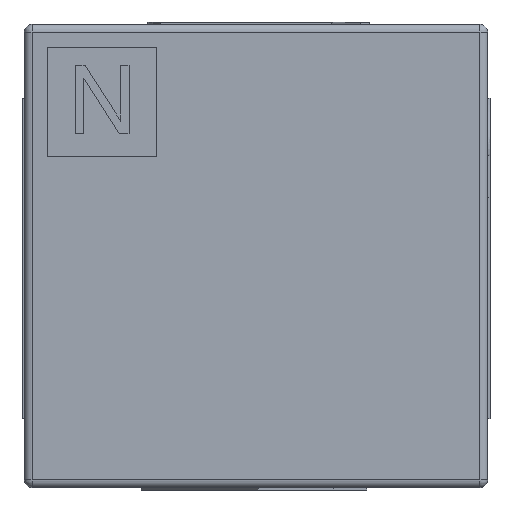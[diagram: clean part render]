
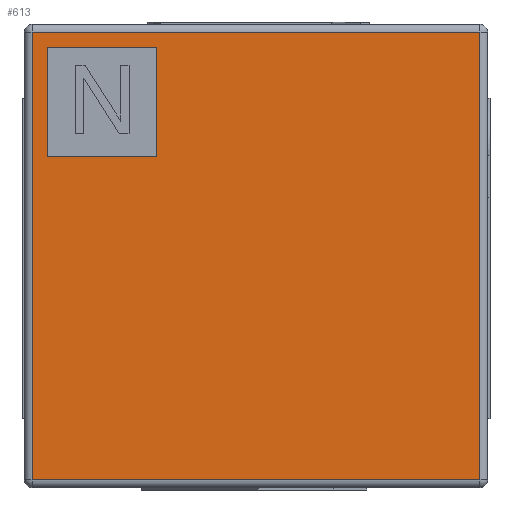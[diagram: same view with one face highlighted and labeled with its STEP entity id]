
A CAD part, front view. The second image highlights one B-rep face of the part: STEP entity #613.
In plain terms, the highlighted planar face has unit normal (0, -1, 0).
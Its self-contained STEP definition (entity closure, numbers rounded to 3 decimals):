
#136 = CYLINDRICAL_SURFACE('',#137,0.5);
#137 = AXIS2_PLACEMENT_3D('',#138,#139,#140);
#138 = CARTESIAN_POINT('',(-14.35,-14.35,-14.85));
#139 = DIRECTION('',(0.,0.,1.));
#140 = DIRECTION('',(-1.,-0.,0.));
#235 = VERTEX_POINT('',#236);
#236 = CARTESIAN_POINT('',(-14.35,-14.85,-14.35));
#263 = EDGE_CURVE('',#235,#264,#266,.T.);
#264 = VERTEX_POINT('',#265);
#265 = CARTESIAN_POINT('',(-14.35,-14.85,14.35));
#266 = SURFACE_CURVE('',#267,(#271,#278),.PCURVE_S1.);
#267 = LINE('',#268,#269);
#268 = CARTESIAN_POINT('',(-14.35,-14.85,-14.85));
#269 = VECTOR('',#270,1.);
#270 = DIRECTION('',(0.,0.,1.));
#271 = PCURVE('',#136,#272);
#272 = DEFINITIONAL_REPRESENTATION('',(#273),#277);
#273 = LINE('',#274,#275);
#274 = CARTESIAN_POINT('',(1.571,0.));
#275 = VECTOR('',#276,1.);
#276 = DIRECTION('',(0.,1.));
#277 = ( GEOMETRIC_REPRESENTATION_CONTEXT(2) 
PARAMETRIC_REPRESENTATION_CONTEXT() REPRESENTATION_CONTEXT('2D SPACE',''
  ) );
#278 = PCURVE('',#279,#284);
#279 = PLANE('',#280);
#280 = AXIS2_PLACEMENT_3D('',#281,#282,#283);
#281 = CARTESIAN_POINT('',(-14.85,-14.85,-14.85));
#282 = DIRECTION('',(0.,1.,0.));
#283 = DIRECTION('',(0.,0.,1.));
#284 = DEFINITIONAL_REPRESENTATION('',(#285),#289);
#285 = LINE('',#286,#287);
#286 = CARTESIAN_POINT('',(0.,0.5));
#287 = VECTOR('',#288,1.);
#288 = DIRECTION('',(1.,0.));
#289 = ( GEOMETRIC_REPRESENTATION_CONTEXT(2) 
PARAMETRIC_REPRESENTATION_CONTEXT() REPRESENTATION_CONTEXT('2D SPACE',''
  ) );
#572 = CYLINDRICAL_SURFACE('',#573,0.5);
#573 = AXIS2_PLACEMENT_3D('',#574,#575,#576);
#574 = CARTESIAN_POINT('',(-14.85,-14.35,-14.35));
#575 = DIRECTION('',(1.,0.,0.));
#576 = DIRECTION('',(0.,-1.,0.));
#602 = CYLINDRICAL_SURFACE('',#603,0.5);
#603 = AXIS2_PLACEMENT_3D('',#604,#605,#606);
#604 = CARTESIAN_POINT('',(-14.85,-14.35,14.35));
#605 = DIRECTION('',(1.,0.,0.));
#606 = DIRECTION('',(0.,-1.,0.));
#613 = ADVANCED_FACE('',(#614),#279,.F.);
#614 = FACE_BOUND('',#615,.F.);
#615 = EDGE_LOOP('',(#616,#617,#640,#668));
#616 = ORIENTED_EDGE('',*,*,#263,.T.);
#617 = ORIENTED_EDGE('',*,*,#618,.T.);
#618 = EDGE_CURVE('',#264,#619,#621,.T.);
#619 = VERTEX_POINT('',#620);
#620 = CARTESIAN_POINT('',(14.35,-14.85,14.35));
#621 = SURFACE_CURVE('',#622,(#626,#633),.PCURVE_S1.);
#622 = LINE('',#623,#624);
#623 = CARTESIAN_POINT('',(-14.85,-14.85,14.35));
#624 = VECTOR('',#625,1.);
#625 = DIRECTION('',(1.,0.,0.));
#626 = PCURVE('',#279,#627);
#627 = DEFINITIONAL_REPRESENTATION('',(#628),#632);
#628 = LINE('',#629,#630);
#629 = CARTESIAN_POINT('',(29.2,0.));
#630 = VECTOR('',#631,1.);
#631 = DIRECTION('',(0.,1.));
#632 = ( GEOMETRIC_REPRESENTATION_CONTEXT(2) 
PARAMETRIC_REPRESENTATION_CONTEXT() REPRESENTATION_CONTEXT('2D SPACE',''
  ) );
#633 = PCURVE('',#602,#634);
#634 = DEFINITIONAL_REPRESENTATION('',(#635),#639);
#635 = LINE('',#636,#637);
#636 = CARTESIAN_POINT('',(-0.,0.));
#637 = VECTOR('',#638,1.);
#638 = DIRECTION('',(-0.,1.));
#639 = ( GEOMETRIC_REPRESENTATION_CONTEXT(2) 
PARAMETRIC_REPRESENTATION_CONTEXT() REPRESENTATION_CONTEXT('2D SPACE',''
  ) );
#640 = ORIENTED_EDGE('',*,*,#641,.F.);
#641 = EDGE_CURVE('',#642,#619,#644,.T.);
#642 = VERTEX_POINT('',#643);
#643 = CARTESIAN_POINT('',(14.35,-14.85,-14.35));
#644 = SURFACE_CURVE('',#645,(#649,#656),.PCURVE_S1.);
#645 = LINE('',#646,#647);
#646 = CARTESIAN_POINT('',(14.35,-14.85,-14.85));
#647 = VECTOR('',#648,1.);
#648 = DIRECTION('',(0.,0.,1.));
#649 = PCURVE('',#279,#650);
#650 = DEFINITIONAL_REPRESENTATION('',(#651),#655);
#651 = LINE('',#652,#653);
#652 = CARTESIAN_POINT('',(0.,29.2));
#653 = VECTOR('',#654,1.);
#654 = DIRECTION('',(1.,0.));
#655 = ( GEOMETRIC_REPRESENTATION_CONTEXT(2) 
PARAMETRIC_REPRESENTATION_CONTEXT() REPRESENTATION_CONTEXT('2D SPACE',''
  ) );
#656 = PCURVE('',#657,#662);
#657 = CYLINDRICAL_SURFACE('',#658,0.5);
#658 = AXIS2_PLACEMENT_3D('',#659,#660,#661);
#659 = CARTESIAN_POINT('',(14.35,-14.35,-14.85));
#660 = DIRECTION('',(0.,0.,1.));
#661 = DIRECTION('',(1.,0.,-0.));
#662 = DEFINITIONAL_REPRESENTATION('',(#663),#667);
#663 = LINE('',#664,#665);
#664 = CARTESIAN_POINT('',(-1.571,0.));
#665 = VECTOR('',#666,1.);
#666 = DIRECTION('',(-0.,1.));
#667 = ( GEOMETRIC_REPRESENTATION_CONTEXT(2) 
PARAMETRIC_REPRESENTATION_CONTEXT() REPRESENTATION_CONTEXT('2D SPACE',''
  ) );
#668 = ORIENTED_EDGE('',*,*,#669,.F.);
#669 = EDGE_CURVE('',#235,#642,#670,.T.);
#670 = SURFACE_CURVE('',#671,(#675,#682),.PCURVE_S1.);
#671 = LINE('',#672,#673);
#672 = CARTESIAN_POINT('',(-14.85,-14.85,-14.35));
#673 = VECTOR('',#674,1.);
#674 = DIRECTION('',(1.,0.,0.));
#675 = PCURVE('',#279,#676);
#676 = DEFINITIONAL_REPRESENTATION('',(#677),#681);
#677 = LINE('',#678,#679);
#678 = CARTESIAN_POINT('',(0.5,0.));
#679 = VECTOR('',#680,1.);
#680 = DIRECTION('',(0.,1.));
#681 = ( GEOMETRIC_REPRESENTATION_CONTEXT(2) 
PARAMETRIC_REPRESENTATION_CONTEXT() REPRESENTATION_CONTEXT('2D SPACE',''
  ) );
#682 = PCURVE('',#572,#683);
#683 = DEFINITIONAL_REPRESENTATION('',(#684),#688);
#684 = LINE('',#685,#686);
#685 = CARTESIAN_POINT('',(0.,0.));
#686 = VECTOR('',#687,1.);
#687 = DIRECTION('',(0.,1.));
#688 = ( GEOMETRIC_REPRESENTATION_CONTEXT(2) 
PARAMETRIC_REPRESENTATION_CONTEXT() REPRESENTATION_CONTEXT('2D SPACE',''
  ) );
